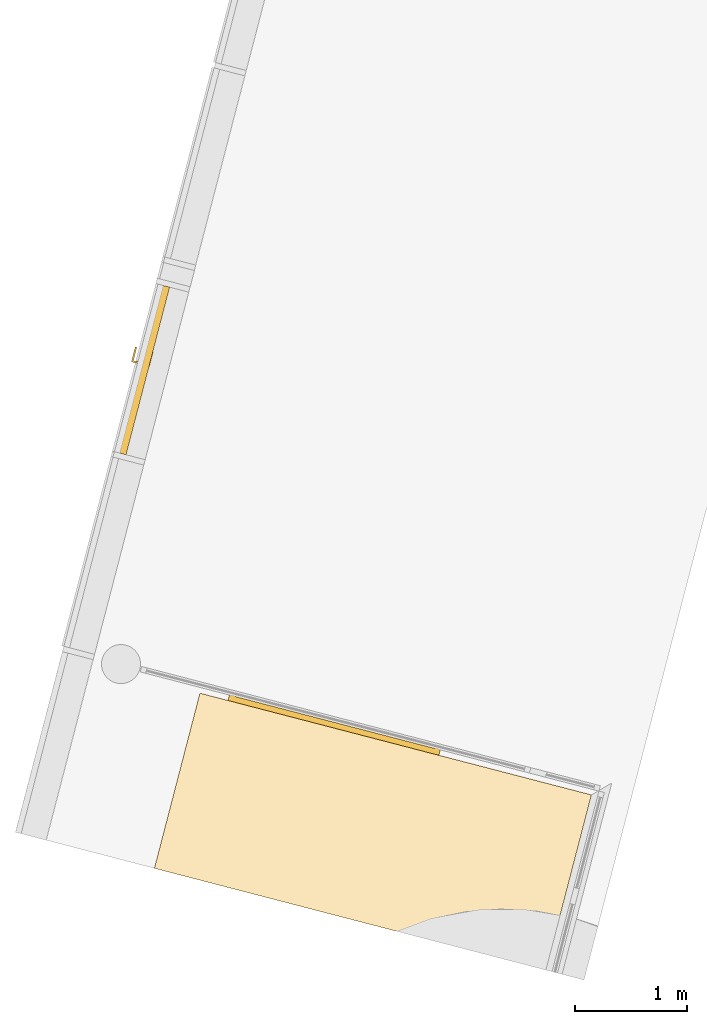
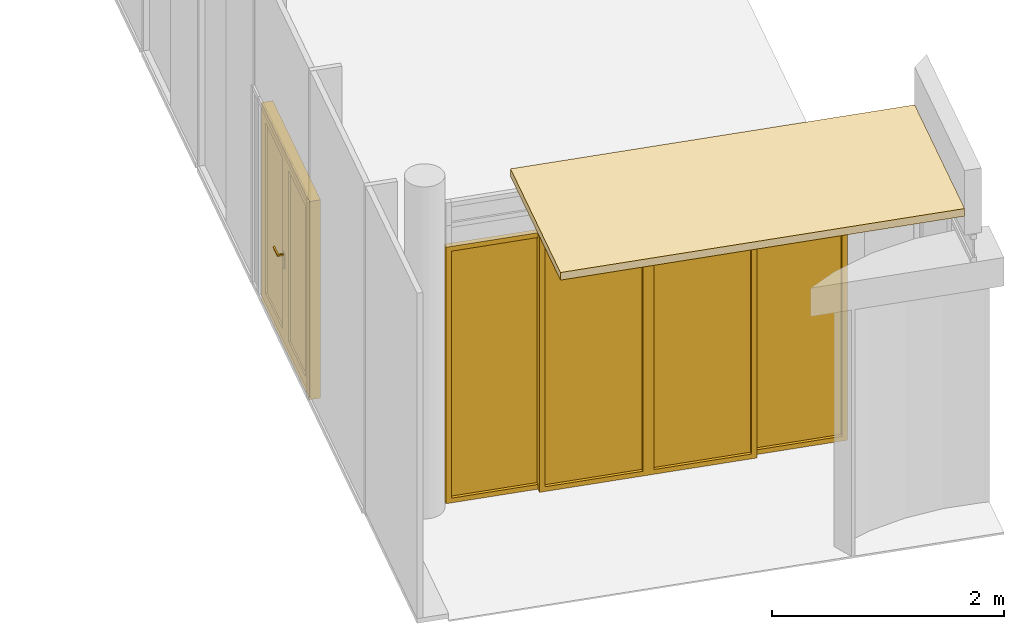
# One storey, part 8 of 9: 2 doors, 1 covering, 1 element without a shape of its own.
"""IFC2X3 building model written with IfcOpenShell, lengths in millimetres."""

from ifc_helpers import new_model, entity, si_unit, converted_unit, derived_unit, direction, frame, frame_2d, origin, origin_with_axes, origin_2d_with_axis, place, context, subcontext, project, spatial, polyline, rectangle, outline, extrude, faceted_brep, source, transform, mapped, material, material_list, type_object, element, aggregate, save


model = new_model("IFC2X3")

# Units and contexts
model_context = context("Model", 3, precision=0.01, world=origin(), true_north=direction((6.12323399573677e-17, 1.0)))
plan_context = context("Plan", 3, precision=1e-05, world=origin_with_axes())
body_context = subcontext(model_context, "Body", "Model", "MODEL_VIEW")
ifc_project = project(units=[converted_unit("PLANEANGLEUNIT", "DEGREE", entity("IfcPositiveLengthMeasure", 0.0174532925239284), si_unit("PLANEANGLEUNIT", "RADIAN"), dimensions=[0, 0, 0, 0, 0, 0, 0]), si_unit("AREAUNIT", "SQUARE_METRE"), si_unit("LENGTHUNIT", "METRE", prefix="MILLI"), si_unit("MASSUNIT", "GRAM", prefix="KILO"), si_unit("POWERUNIT", "WATT"), si_unit("PRESSUREUNIT", "PASCAL", prefix="KILO"), si_unit("FORCEUNIT", "NEWTON", prefix="KILO"), si_unit("ELECTRICVOLTAGEUNIT", "VOLT"), si_unit("ELECTRICCURRENTUNIT", "AMPERE"), si_unit("THERMODYNAMICTEMPERATUREUNIT", "DEGREE_CELSIUS"), si_unit("TIMEUNIT", "SECOND"), si_unit("VOLUMEUNIT", "CUBIC_METRE"), derived_unit("LINEARVELOCITYUNIT", [(si_unit("LENGTHUNIT", "METRE"), 1), (si_unit("TIMEUNIT", "SECOND"), -1)]), derived_unit("VOLUMETRICFLOWRATEUNIT", [(si_unit("VOLUMEUNIT", "CUBIC_METRE"), 1), (si_unit("TIMEUNIT", "SECOND"), -1)]), derived_unit("THERMALTRANSMITTANCEUNIT", [(si_unit("POWERUNIT", "WATT"), 1), (si_unit("THERMODYNAMICTEMPERATUREUNIT", "KELVIN"), -1), (si_unit("AREAUNIT", "SQUARE_METRE"), -1)]), derived_unit("SOUNDPRESSUREUNIT", [(si_unit("PRESSUREUNIT", "PASCAL"), 1)])], contexts=[model_context, plan_context])

# Site, building, storey
site_placement = place(None, frame((0.0, -2.21771188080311e-09, 0.0), z_axis=(0.0, 0.0, 1.0), x_axis=(0.266093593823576, -0.963947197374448, 0.0)))
site = spatial("IfcSite", under=ifc_project, at=site_placement, Name="ENZV", CompositionType="ELEMENT")
building_placement = place(site_placement, origin_with_axes())
building = spatial("IfcBuilding", under=site, at=building_placement, Name="ZV001", CompositionType="ELEMENT")
storey_placement = place(building_placement, frame((0.0, 0.0, 5100.0), z_axis=(0.0, 0.0, 1.0), x_axis=(1.0, 0.0, 0.0)))
storey = spatial("IfcBuildingStorey", under=building, at=storey_placement, Name="H01", CompositionType="ELEMENT", Elevation=5100.0)

# Curtain wall, door
curtain_wall_type = type_object("IfcCurtainWallType", Name="Curtain Wall:Glassvegg 24 dB", PredefinedType="NOTDEFINED")
curtain_wall_placement = place(storey_placement, frame((0.0, 0.0, -5100.0), z_axis=(0.0, 0.0, 1.0), x_axis=(1.0, 0.0, 0.0)))
curtain_wall = element("IfcCurtainWall", 1, at=curtain_wall_placement, inside=storey, type_object=curtain_wall_type, Name="Curtain Wall:Glassvegg 24 dB", ObjectType="Curtain Wall:Glassvegg 24 dB")
ifc_material_1 = material(Name="Glassplater")
ifc_material_2 = material(Name="Aluminium")
ifc_material_list_1 = material_list([ifc_material_1, ifc_material_2])
door_style_1 = type_object("IfcDoorStyle", Name="Systemveggdør Skyvedør Dobbel med Glassfelt (parametrisk offset):Aluminiumglassfelt Innendørs", ConstructionType="USERDEFINED", OperationType="NOTDEFINED", ParameterTakesPrecedence=False, Sizeable=False, material=ifc_material_list_1)
shared_shape_1 = source(origin(), body_context, "Body", "SweptSolid", [
    extrude(rectangle(XDim=9.99999999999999, YDim=875.394656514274, at=origin_2d_with_axis()), frame((-487.697328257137, -40.0, 50.0), z_axis=(0.0, 0.0, 1.0), x_axis=(0.0, 1.0, 0.0)), (0.0, 0.0, 1.0), 2604.00000000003),
    extrude(outline(polyline([(-487.697328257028, -1352.0), (487.697328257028, -1352.0), (487.697328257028, 1352.0), (-487.697328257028, 1352.0), (-487.697328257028, -1352.0)]), holes=[polyline([(-437.697328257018, 1302.0), (437.697328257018, 1302.0), (437.697328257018, -1302.0), (-437.697328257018, -1302.0), (-437.697328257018, 1302.0)])]), frame((-487.697328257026, -75.0, 1352.0), z_axis=(0.0, 1.0, 0.0), x_axis=(-1.0, 0.0, 0.0)), (0.0, 0.0, 1.0), 50.0),
    extrude(rectangle(XDim=9.99999999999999, YDim=875.394656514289, at=frame_2d((0.0, -5.6843418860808e-14), x_axis=(1.0, 0.0))), frame((487.697328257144, -40.0, 50.0), z_axis=(0.0, 0.0, 1.0), x_axis=(0.0, 1.0, 0.0)), (0.0, 0.0, 1.0), 2604.0),
    extrude(outline(polyline([(-1352.0, -487.697328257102), (1352.0, -487.697328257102), (1352.0, 487.697328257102), (-1352.0, 487.697328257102), (-1352.0, -487.697328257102)]), holes=[polyline([(1302.0, -437.697328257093), (-1302.0, -437.697328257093), (-1302.0, 437.697328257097), (1302.0, 437.697328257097), (1302.0, -437.697328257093)])]), frame((487.697328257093, -75.0, 1352.0), z_axis=(0.0, 1.0, 0.0), x_axis=(0.0, 0.0, 1.0)), (0.0, 0.0, 1.0), 50.0),
    extrude(rectangle(XDim=9.99999999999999, YDim=774.499999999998, at=frame_2d((0.0, -5.6843418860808e-14), x_axis=(1.0, 0.0))), frame((1362.64465651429, 10.0, 50.0), z_axis=(0.0, 0.0, 1.0), x_axis=(0.0, 1.0, 0.0)), (0.0, 0.0, 1.0), 2604.0),
    extrude(outline(polyline([(-437.250000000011, -1352.0), (437.250000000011, -1352.0), (437.250000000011, 1352.0), (-437.250000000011, 1352.0), (-437.250000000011, -1352.0)]), holes=[polyline([(-387.250000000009, 1302.0), (387.249999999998, 1302.0), (387.249999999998, -1302.0), (-387.250000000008, -1302.0), (-387.250000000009, 1302.0)])]), frame((1362.64465651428, -25.0, 1352.0), z_axis=(0.0, 1.0, 0.0), x_axis=(-1.0, 0.0, 0.0)), (0.0, 0.0, 1.0), 50.000000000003),
    extrude(rectangle(XDim=9.99999999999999, YDim=774.499999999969, at=origin_2d_with_axis()), frame((-1362.64465651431, 10.0, 50.0), z_axis=(0.0, 0.0, 1.0), x_axis=(0.0, 1.0, 0.0)), (0.0, 0.0, 1.0), 2604.0),
    extrude(outline(polyline([(-1352.0, -437.249999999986), (1352.0, -437.249999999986), (1352.0, 437.249999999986), (-1352.0, 437.249999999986), (-1352.0, -437.249999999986)]), holes=[polyline([(1302.0, -387.249999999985), (-1302.0, -387.249999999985), (-1302.0, 387.249999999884), (1302.0, 387.249999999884), (1302.0, -387.249999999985)])]), frame((-1362.64465651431, -25.0, 1352.0), z_axis=(0.0, 1.0, 0.0), x_axis=(0.0, 0.0, 1.0)), (0.0, 0.0, 1.0), 50.0),
])
door_1_placement = place(curtain_wall_placement, frame((-158182.338010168, 368952.531358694, 5120.0), z_axis=(0.0, 0.0, 1.0), x_axis=(0.5, 0.866025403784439, 0.0)))
door_1 = element("IfcDoor", 2, at=door_1_placement, type_object=door_style_1, material=ifc_material_list_1, Name="Systemveggdør Skyvedør Dobbel med Glassfelt (parametrisk offset):Aluminiumglassfelt Innendørs", ObjectType="Systemveggdør Skyvedør Dobbel med Glassfelt (parametrisk offset):Aluminiumglassfelt Innendørs", OverallHeight=2704.0, OverallWidth=3599.78931302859, context=body_context, shape_type="MappedRepresentation", body=[
    mapped(shared_shape_1, transform((0.0, 0.0, 0.0), scale=1.0)),
])
aggregate(curtain_wall, [door_1])

# Door
ifc_material_3 = material(Name="Rustfritt Stål")
ifc_material_4 = material(Name="Glassdør med alukarm")
ifc_material_list_2 = material_list([ifc_material_3, ifc_material_1, ifc_material_4, ifc_material_2])
door_style_2 = type_object("IfcDoorStyle", Name="Tofløyet Glassfelt:YDG13_15.5x21M", ConstructionType="USERDEFINED", OperationType="DOUBLE_DOOR_SINGLE_SWING", ParameterTakesPrecedence=False, Sizeable=False, material=ifc_material_list_2)
shared_shape_2 = source(origin(), body_context, "Body", "SweptSolid", [
    extrude(outline(polyline([(-50.8333333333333, -33.3333333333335), (-35.8333333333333, -33.3333333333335), (-35.8333333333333, 9.16666666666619), (86.6666666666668, 9.16666666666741), (86.6666666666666, 24.1666666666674), (-50.8333333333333, 24.166666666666), (-50.8333333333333, -33.3333333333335)])), frame((878.333333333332, 68.9410394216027, 970.500000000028)), (0.0, 0.0, 1.0), 14.9999999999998),
    extrude(rectangle(XDim=50.0, YDim=5.6, at=frame_2d((-1.77635683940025e-15, 0.0), x_axis=(1.0, 0.0))), frame((835.0, 32.800000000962, 840.98629504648), z_axis=(0.0, 0.0, 1.0), x_axis=(-1.0, 0.0, 0.0)), (0.0, 0.0, 1.0), 159.01370495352),
    extrude(outline(polyline([(-33.3333333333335, -50.8333333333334), (24.166666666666, -50.8333333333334), (24.1666666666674, 86.6666666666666), (9.1666666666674, 86.6666666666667), (9.1666666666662, -35.8333333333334), (-33.3333333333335, -35.8333333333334), (-33.3333333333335, -50.8333333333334)])), frame((878.333333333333, -48.9410394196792, 970.500000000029), z_axis=(0.0, 0.0, 1.0), x_axis=(0.0, -1.0, 0.0)), (0.0, 0.0, 1.0), 14.9999999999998),
    extrude(rectangle(XDim=5.6, YDim=50.0, at=frame_2d((4.2188474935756e-15, 8.88178419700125e-15), x_axis=(1.0, 0.0))), frame((835.0, -12.7999999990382, 840.986295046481), z_axis=(0.0, 0.0, 1.0), x_axis=(0.0, 1.0, 0.0)), (0.0, 0.0, 1.0), 159.01370495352),
    extrude(rectangle(XDim=10.0, YDim=545.0, at=frame_2d((0.0, -5.6843418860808e-14), x_axis=(1.0, 0.0))), frame((1157.5, 10.0, 160.0), z_axis=(0.0, 0.0, 1.0), x_axis=(0.0, -1.0, 0.0)), (0.0, 0.0, 1.0), 1799.99999999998),
    extrude(rectangle(XDim=10.0, YDim=544.999999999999, at=origin_2d_with_axis()), frame((412.499999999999, 10.0, 160.0), z_axis=(0.0, 0.0, 1.0), x_axis=(0.0, -1.0, 0.0)), (0.0, 0.0, 1.0), 1799.99999999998),
    extrude(outline(polyline([(-372.5, -1025.0), (372.5, -1025.0), (372.5, 1025.0), (-372.5, 1025.0), (-372.5, -1025.0)]), holes=[polyline([(-272.5, 925.0), (272.5, 925.0), (272.5, -875.0), (-272.5, -875.0), (-272.5, 925.0)])]), frame((412.499999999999, -10.0, 1035.0), z_axis=(0.0, 1.0, 0.0), x_axis=(-1.0, 0.0, 0.0)), (0.0, 0.0, 1.0), 40.0),
    extrude(outline(polyline([(-1025.0, -372.5), (1025.0, -372.5), (1025.0, 372.5), (-1025.0, 372.5), (-1025.0, -372.5)]), holes=[polyline([(-925.0, -272.5), (-925.0, 272.5), (875.0, 272.5), (875.0, -272.5), (-925.0, -272.5)])]), frame((1157.5, -10.0, 1035.0), z_axis=(0.0, 1.0, 0.0), x_axis=(0.0, 0.0, -1.0)), (0.0, 0.0, 1.0), 40.0),
    extrude(outline(polyline([(-1037.49999999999, -775.0), (1052.49999999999, -775.0), (1052.49999999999, 775.0), (-1037.49999999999, 775.0), (-1037.49999999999, 745.0), (1022.49999999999, 745.0), (1022.49999999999, -745.0), (-1037.49999999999, -745.0), (-1037.49999999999, -775.0)])), frame((785.0, -70.0, 1037.49999999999), z_axis=(0.0, 1.0, 0.0), x_axis=(0.0, 0.0, 1.0)), (0.0, 0.0, 1.0), 99.9999999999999),
])
door_2_placement = place(storey_placement, frame((-160995.178480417, 367710.462661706, 0.0), z_axis=(0.0, 0.0, 1.0), x_axis=(-0.866001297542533, 0.50004175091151, 0.0)))
element("IfcDoor", 3, at=door_2_placement, inside=storey, type_object=door_style_2, material=ifc_material_list_2, Name="Tofløyet Glassfelt:YDG13_15.5x21M", ObjectType="Tofløyet Glassfelt:YDG13_15.5x21M", OverallHeight=2109.99999999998, OverallWidth=1570.0, context=body_context, shape_type="MappedRepresentation", body=[
    mapped(shared_shape_2, transform((0.0, 0.0, 0.0), scale=1.0)),
])

# Covering
covering_type = type_object("IfcCoveringType", Name="Compound Ceiling:ENZV_H01_Perf gipshimling 600x600mm", PredefinedType="CEILING")
covering_placement = place(storey_placement, origin_with_axes())
element("IfcCovering", 4, at=covering_placement, inside=storey, type_object=covering_type, Name="Compound Ceiling:ENZV_H01_Perf gipshimling 600x600mm", ObjectType="Compound Ceiling:ENZV_H01_Perf gipshimling 600x600mm", PredefinedType="CEILING", context=body_context, shape_type="Brep", body=[
    faceted_brep([(-155521.117226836, 370171.567027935, 3400.0), (-155521.117226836, 370171.567027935, 3480.0), (-156924.223010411, 370981.650510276, 3480.0), (-156924.223010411, 370981.650510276, 3400.0), (-158734.828846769, 367845.589133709, 3480.0), (-158734.828846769, 367845.589133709, 3400.0), (-157331.870496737, 367035.587723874, 3480.0), (-157331.870496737, 367035.587723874, 3400.0)], [[[0, 1, 2, 3]], [[3, 2, 4, 5]], [[6, 7, 5, 4]], [[7, 0, 3, 5]], [[1, 6, 4, 2]], [[7, 6, 1, 0]]], orient=[[False], [False], [False], [False], [False], [False]]),
])

save(model, "model.ifc")
